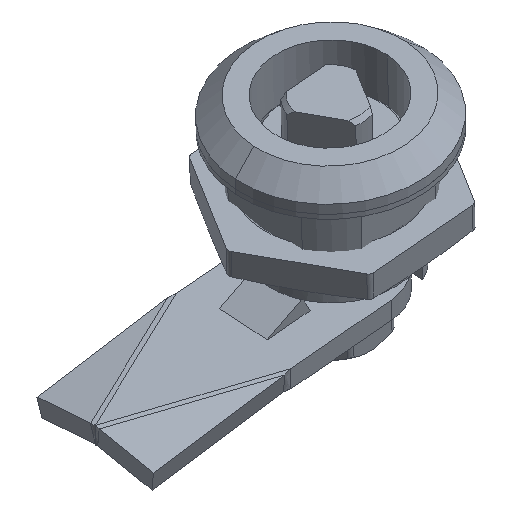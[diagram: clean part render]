
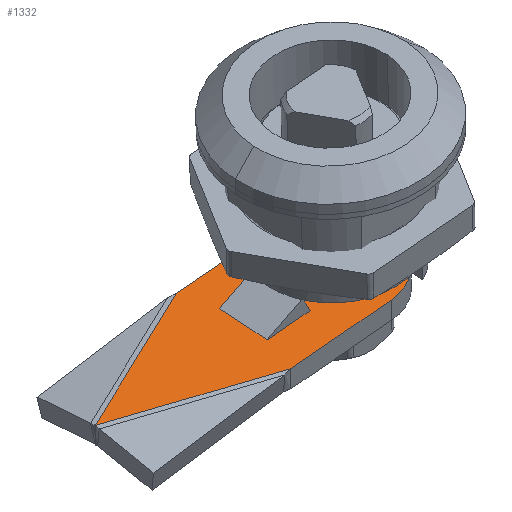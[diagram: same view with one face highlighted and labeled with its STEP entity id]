
A CAD part, isometric view. The second image highlights one B-rep face of the part: STEP entity #1332.
In plain terms, the highlighted planar face has unit normal (-0.094, -0.069, 0.993) as drawn and (0, 0, 1) by its records, which use the part's own axes.
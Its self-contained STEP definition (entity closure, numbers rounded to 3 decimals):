
#819 = VERTEX_POINT ( 'NONE', #6704 ) ;
#821 = EDGE_CURVE ( 'NONE', #822, #819, #6703, .T. ) ;
#822 = VERTEX_POINT ( 'NONE', #6761 ) ;
#888 = VERTEX_POINT ( 'NONE', #6996 ) ;
#1199 = VERTEX_POINT ( 'NONE', #8009 ) ;
#1208 = VERTEX_POINT ( 'NONE', #8028 ) ;
#1216 = EDGE_CURVE ( 'NONE', #1208, #1217, #8055, .T. ) ;
#1217 = VERTEX_POINT ( 'NONE', #8051 ) ;
#1234 = VERTEX_POINT ( 'NONE', #8123 ) ;
#1254 = EDGE_CURVE ( 'NONE', #1271, #1255, #8096, .T. ) ;
#1255 = VERTEX_POINT ( 'NONE', #8153 ) ;
#1261 = VERTEX_POINT ( 'NONE', #8127 ) ;
#1264 = EDGE_CURVE ( 'NONE', #1282, #1234, #8178, .T. ) ;
#1270 = EDGE_CURVE ( 'NONE', #888, #1271, #8154, .T. ) ;
#1271 = VERTEX_POINT ( 'NONE', #8205 ) ;
#1281 = EDGE_CURVE ( 'NONE', #1217, #1282, #8233, .T. ) ;
#1282 = VERTEX_POINT ( 'NONE', #8229 ) ;
#1289 = EDGE_CURVE ( 'NONE', #1234, #1208, #8260, .T. ) ;
#1294 = EDGE_CURVE ( 'NONE', #822, #888, #8240, .T. ) ;
#1299 = VERTEX_POINT ( 'NONE', #8267 ) ;
#1306 = EDGE_CURVE ( 'NONE', #1323, #1199, #8300, .T. ) ;
#1313 = EDGE_CURVE ( 'NONE', #1255, #1261, #8339, .T. ) ;
#1322 = EDGE_CURVE ( 'NONE', #1261, #1323, #8358, .T. ) ;
#1323 = VERTEX_POINT ( 'NONE', #8354 ) ;
#1329 = EDGE_CURVE ( 'NONE', #1346, #1299, #8397, .T. ) ;
#1332 = ADVANCED_FACE ( 'NONE', ( #8388, #8387, #8386 ), #8433, .F. ) ;
#1333 = EDGE_LOOP ( 'NONE', ( #1334, #1335, #1336, #1337 ) ) ;
#1334 = ORIENTED_EDGE ( 'NONE', *, *, #1345, .F. ) ;
#1335 = ORIENTED_EDGE ( 'NONE', *, *, #1363, .F. ) ;
#1336 = ORIENTED_EDGE ( 'NONE', *, *, #1354, .F. ) ;
#1337 = ORIENTED_EDGE ( 'NONE', *, *, #1329, .F. ) ;
#1345 = EDGE_CURVE ( 'NONE', #1364, #1346, #8461, .T. ) ;
#1346 = VERTEX_POINT ( 'NONE', #8457 ) ;
#1354 = EDGE_CURVE ( 'NONE', #1299, #1355, #8478, .T. ) ;
#1355 = VERTEX_POINT ( 'NONE', #8474 ) ;
#1363 = EDGE_CURVE ( 'NONE', #1355, #1364, #8498, .T. ) ;
#1364 = VERTEX_POINT ( 'NONE', #8494 ) ;
#1365 = EDGE_CURVE ( 'NONE', #1199, #819, #8549, .T. ) ;
#1380 = ORIENTED_EDGE ( 'NONE', *, *, #1216, .F. ) ;
#1381 = ORIENTED_EDGE ( 'NONE', *, *, #1289, .F. ) ;
#1382 = ORIENTED_EDGE ( 'NONE', *, *, #1264, .F. ) ;
#1396 = EDGE_LOOP ( 'NONE', ( #1397, #1398, #1399, #1400, #1401, #1402, #1403, #1404 ) ) ;
#1397 = ORIENTED_EDGE ( 'NONE', *, *, #821, .T. ) ;
#1398 = ORIENTED_EDGE ( 'NONE', *, *, #1365, .F. ) ;
#1399 = ORIENTED_EDGE ( 'NONE', *, *, #1306, .F. ) ;
#1400 = ORIENTED_EDGE ( 'NONE', *, *, #1322, .F. ) ;
#1401 = ORIENTED_EDGE ( 'NONE', *, *, #1313, .F. ) ;
#1402 = ORIENTED_EDGE ( 'NONE', *, *, #1254, .F. ) ;
#1403 = ORIENTED_EDGE ( 'NONE', *, *, #1270, .F. ) ;
#1404 = ORIENTED_EDGE ( 'NONE', *, *, #1294, .F. ) ;
#1405 = EDGE_LOOP ( 'NONE', ( #1406, #1380, #1381, #1382 ) ) ;
#1406 = ORIENTED_EDGE ( 'NONE', *, *, #1281, .F. ) ;
#6702 = CARTESIAN_POINT ( 'NONE',  ( 30., 0., 2. ) ) ;
#6703 = LINE ( 'NONE', #6702, #6763 ) ;
#6704 = CARTESIAN_POINT ( 'NONE',  ( 30., 6.021, 2. ) ) ;
#6761 = CARTESIAN_POINT ( 'NONE',  ( 30., 6.006, 2. ) ) ;
#6762 = DIRECTION ( 'NONE',  ( 0., 1., 0. ) ) ;
#6763 = VECTOR ( 'NONE', #6762, 1000. ) ;
#6996 = CARTESIAN_POINT ( 'NONE',  ( 15.5, 0., 2. ) ) ;
#7000 = DIRECTION ( 'NONE',  ( 0., 0., -1. ) ) ;
#7444 = DIRECTION ( 'NONE',  ( -1., 0., 0. ) ) ;
#8009 = CARTESIAN_POINT ( 'NONE',  ( 15.566, 12., 2. ) ) ;
#8028 = CARTESIAN_POINT ( 'NONE',  ( 14.494, 8.5, 2. ) ) ;
#8051 = CARTESIAN_POINT ( 'NONE',  ( 9.994, 8.5, 2. ) ) ;
#8052 = DIRECTION ( 'NONE',  ( -1., 0., 0. ) ) ;
#8053 = VECTOR ( 'NONE', #8052, 1000. ) ;
#8054 = CARTESIAN_POINT ( 'NONE',  ( 0., 8.5, 2. ) ) ;
#8055 = LINE ( 'NONE', #8054, #8053 ) ;
#8094 = CARTESIAN_POINT ( 'NONE',  ( 5., 5., 2. ) ) ;
#8095 = AXIS2_PLACEMENT_3D ( 'NONE', #8094, #7000, #7444 ) ;
#8096 = CIRCLE ( 'NONE', #8095, 5. ) ;
#8123 = CARTESIAN_POINT ( 'NONE',  ( 14.494, 3.5, 2. ) ) ;
#8127 = CARTESIAN_POINT ( 'NONE',  ( 0., 7., 2. ) ) ;
#8153 = CARTESIAN_POINT ( 'NONE',  ( 0., 5., 2. ) ) ;
#8154 = LINE ( 'NONE', #8208, #8207 ) ;
#8175 = DIRECTION ( 'NONE',  ( 1., 0., 0. ) ) ;
#8176 = VECTOR ( 'NONE', #8175, 1000. ) ;
#8177 = CARTESIAN_POINT ( 'NONE',  ( 0., 3.5, 2. ) ) ;
#8178 = LINE ( 'NONE', #8177, #8176 ) ;
#8205 = CARTESIAN_POINT ( 'NONE',  ( 5., 0., 2. ) ) ;
#8206 = DIRECTION ( 'NONE',  ( -1., 0., 0. ) ) ;
#8207 = VECTOR ( 'NONE', #8206, 1000. ) ;
#8208 = CARTESIAN_POINT ( 'NONE',  ( 0., 0., 2. ) ) ;
#8229 = CARTESIAN_POINT ( 'NONE',  ( 9.994, 3.5, 2. ) ) ;
#8230 = DIRECTION ( 'NONE',  ( 0., -1., 0. ) ) ;
#8231 = VECTOR ( 'NONE', #8230, 1000. ) ;
#8232 = CARTESIAN_POINT ( 'NONE',  ( 9.994, 12., 2. ) ) ;
#8233 = LINE ( 'NONE', #8232, #8231 ) ;
#8240 = LINE ( 'NONE', #8290, #8289 ) ;
#8257 = DIRECTION ( 'NONE',  ( 0., 1., 0. ) ) ;
#8258 = VECTOR ( 'NONE', #8257, 1000. ) ;
#8259 = CARTESIAN_POINT ( 'NONE',  ( 14.494, 12., 2. ) ) ;
#8260 = LINE ( 'NONE', #8259, #8258 ) ;
#8267 = CARTESIAN_POINT ( 'NONE',  ( 1.956, 9.056, 2. ) ) ;
#8288 = DIRECTION ( 'NONE',  ( -0.924, -0.383, 0. ) ) ;
#8289 = VECTOR ( 'NONE', #8288, 1000. ) ;
#8290 = CARTESIAN_POINT ( 'NONE',  ( 30., 6.006, 2. ) ) ;
#8297 = DIRECTION ( 'NONE',  ( 1., 0., 0. ) ) ;
#8298 = VECTOR ( 'NONE', #8297, 1000. ) ;
#8299 = CARTESIAN_POINT ( 'NONE',  ( 0., 12., 2. ) ) ;
#8300 = LINE ( 'NONE', #8299, #8298 ) ;
#8332 = DIRECTION ( 'NONE',  ( 0., 1., 0. ) ) ;
#8333 = VECTOR ( 'NONE', #8332, 1000. ) ;
#8334 = CARTESIAN_POINT ( 'NONE',  ( 0., 12., 2. ) ) ;
#8339 = LINE ( 'NONE', #8334, #8333 ) ;
#8354 = CARTESIAN_POINT ( 'NONE',  ( 5., 12., 2. ) ) ;
#8355 = DIRECTION ( 'NONE',  ( -1., 0., 0. ) ) ;
#8356 = DIRECTION ( 'NONE',  ( 0., 0., -1. ) ) ;
#8357 = AXIS2_PLACEMENT_3D ( 'NONE', #8363, #8356, #8355 ) ;
#8358 = CIRCLE ( 'NONE', #8357, 5. ) ;
#8363 = CARTESIAN_POINT ( 'NONE',  ( 5., 7., 2. ) ) ;
#8386 = FACE_BOUND ( 'NONE', #1405, .T. ) ;
#8387 = FACE_OUTER_BOUND ( 'NONE', #1396, .T. ) ;
#8388 = FACE_BOUND ( 'NONE', #1333, .T. ) ;
#8389 = DIRECTION ( 'NONE',  ( -1., 0.002, 0. ) ) ;
#8390 = VECTOR ( 'NONE', #8389, 1000. ) ;
#8391 = CARTESIAN_POINT ( 'NONE',  ( 8.056, 9.044, 2. ) ) ;
#8397 = LINE ( 'NONE', #8391, #8390 ) ;
#8429 = DIRECTION ( 'NONE',  ( -1., 0., 0. ) ) ;
#8430 = DIRECTION ( 'NONE',  ( 0., 0., -1. ) ) ;
#8431 = CARTESIAN_POINT ( 'NONE',  ( 0., 12., 2. ) ) ;
#8432 = AXIS2_PLACEMENT_3D ( 'NONE', #8431, #8430, #8429 ) ;
#8433 = PLANE ( 'NONE',  #8432 ) ;
#8457 = CARTESIAN_POINT ( 'NONE',  ( 8.056, 9.044, 2. ) ) ;
#8458 = DIRECTION ( 'NONE',  ( 0.002, 1., 0. ) ) ;
#8459 = VECTOR ( 'NONE', #8458, 1000. ) ;
#8460 = CARTESIAN_POINT ( 'NONE',  ( 8.044, 2.944, 2. ) ) ;
#8461 = LINE ( 'NONE', #8460, #8459 ) ;
#8474 = CARTESIAN_POINT ( 'NONE',  ( 1.944, 2.956, 2. ) ) ;
#8475 = DIRECTION ( 'NONE',  ( -0.002, -1., 0. ) ) ;
#8476 = VECTOR ( 'NONE', #8475, 1000. ) ;
#8477 = CARTESIAN_POINT ( 'NONE',  ( 1.956, 9.056, 2. ) ) ;
#8478 = LINE ( 'NONE', #8477, #8476 ) ;
#8494 = CARTESIAN_POINT ( 'NONE',  ( 8.044, 2.944, 2. ) ) ;
#8495 = DIRECTION ( 'NONE',  ( 1., -0.002, 0. ) ) ;
#8496 = VECTOR ( 'NONE', #8495, 1000. ) ;
#8497 = CARTESIAN_POINT ( 'NONE',  ( 1.944, 2.956, 2. ) ) ;
#8498 = LINE ( 'NONE', #8497, #8496 ) ;
#8546 = DIRECTION ( 'NONE',  ( 0.924, -0.383, 0. ) ) ;
#8547 = VECTOR ( 'NONE', #8546, 1000. ) ;
#8548 = CARTESIAN_POINT ( 'NONE',  ( 15.566, 12., 2. ) ) ;
#8549 = LINE ( 'NONE', #8548, #8547 ) ;
